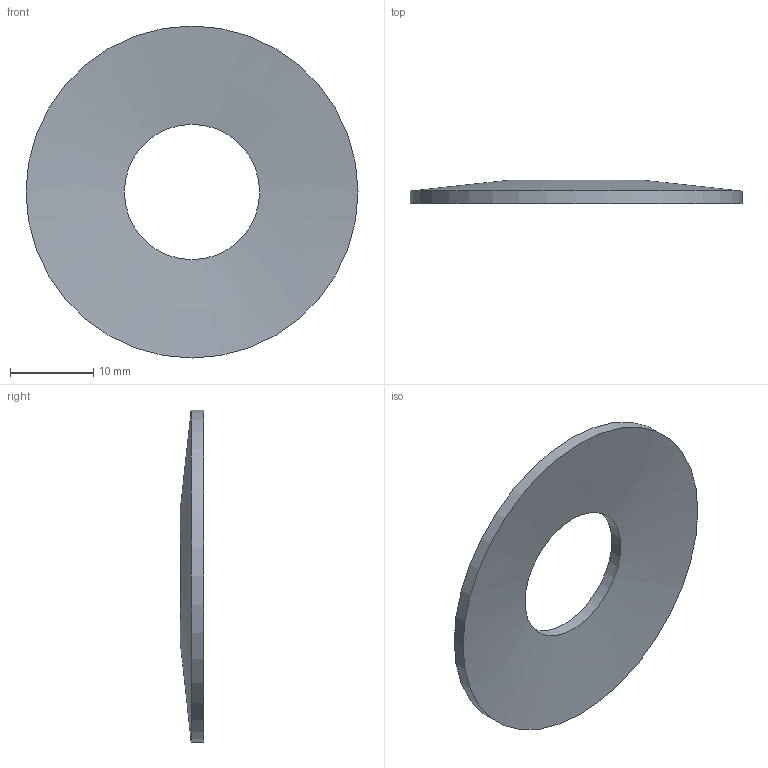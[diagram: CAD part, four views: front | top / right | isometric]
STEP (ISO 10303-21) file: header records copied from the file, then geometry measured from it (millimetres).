
FILE_DESCRIPTION(/* description */ ('2748N'),/* implementation_level */ '2;1');
FILE_NAME(/* name */ 'ST.0400.0163.0150.step',/* time_stamp */ '2026-09-18T10:30:22+02:00',/* author */ ('impex-ready.pl'),/* organization */ ('ST.0400.0163.0150'),/* preprocessor_version */ 'ST-DEVELOPER v20.1',/* originating_system */ 'Autodesk Inventor 2026',/* authorisation */ 'Ugiecie 0,75 h0 = 0.98');
FILE_SCHEMA (('AUTOMOTIVE_DESIGN { 1 0 10303 214 3 1 1 }'));
Length unit declared in the file: millimetre
Products named in the file (1): ST.0400.0163.0150
Bounding box: 40 x 2.8 x 40 mm (x, y, z)
Volume: 1581.2 mm3; surface area: 2375.2 mm2
Topology: 1 solids, 1 shells, 4 faces, 8 edges, 4 vertices
Faces by surface type: cone 2, cylinder 2
Full cylindrical faces by diameter (mm): 16.3 x1, 40 x1
Entity records: 151 total; most frequent: DIRECTION 22, CARTESIAN_POINT 17, ORIENTED_EDGE 16, AXIS2_PLACEMENT_3D 9, EDGE_CURVE 8, FACE_OUTER_BOUND 4, EDGE_LOOP 4, LINE 4
